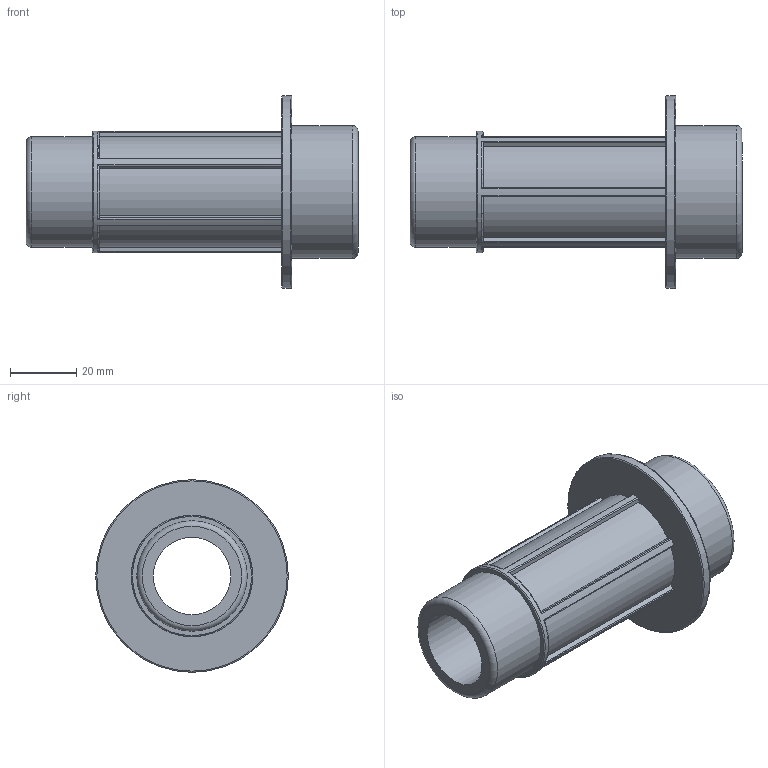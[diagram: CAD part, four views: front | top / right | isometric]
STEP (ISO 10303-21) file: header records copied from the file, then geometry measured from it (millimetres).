
FILE_DESCRIPTION(/* description */ ('PLASSON THREADED MALE ADAPTOR 40-1"'),/* implementation_level */ '2;1');
FILE_NAME(/* name */ 'C:\Dropbox\KIMPROJECTS-Inventor\99-16-3568-Processing\Silver+MF ISRAEL\078901\078901040010.ipt.stp',/* time_stamp */ '2018-04-09T13:01:56+03:00',/* author */ ('KIM'),/* organization */ (''),/* preprocessor_version */ 'ST-DEVELOPER v15.6',/* originating_system */ 'Autodesk Inventor 2015',/* authorisation */ '');
FILE_SCHEMA (('AUTOMOTIVE_DESIGN { 1 0 10303 214 3 1 1 }'));
Length unit declared in the file: millimetre
Products named in the file (1): 078901040010
Bounding box: 100 x 58 x 58 mm (x, y, z)
Volume: 59034.5 mm3; surface area: 23950.8 mm2
Topology: 1 solids, 1 shells, 57 faces, 151 edges, 99 vertices
Faces by surface type: cylinder 23, plane 23, torus 11
Full cylindrical faces by diameter (mm): 23.274 x1, 33.249 x1, 36.574 x1, 40 x1, 58 x1
Entity records: 1894 total; most frequent: CARTESIAN_POINT 488, DIRECTION 288, ORIENTED_EDGE 280, EDGE_CURVE 140, AXIS2_PLACEMENT_3D 114, VERTEX_POINT 98, EDGE_LOOP 72, LINE 60
